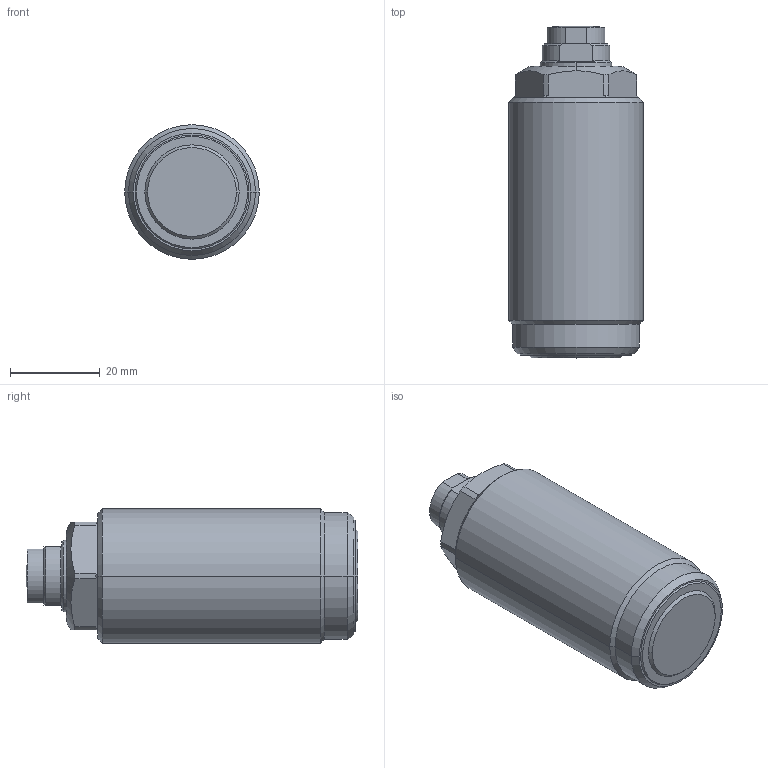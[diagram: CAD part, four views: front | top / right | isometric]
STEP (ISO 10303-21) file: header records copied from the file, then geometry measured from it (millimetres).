
FILE_DESCRIPTION(/* description */ (''),/* implementation_level */ '2;1');
FILE_NAME(/* name */ 'PGSC06-D.stp',/* time_stamp */ '2025-01-05T10:59:46+08:00',/* author */ (''),/* organization */ (''),/* preprocessor_version */ 'ST-DEVELOPER v16.7',/* originating_system */ 'SIEMENS PLM Software NX 12.0',/* authorisation */ '');
FILE_SCHEMA (('AUTOMOTIVE_DESIGN { 1 0 10303 214 3 1 1 1 }'));
Length unit declared in the file: millimetre
Products named in the file (4): PGSC06-D-3; PGSC06-D-2; PGSC06-D-1; CSW06M-D_step
Assembly tree (3 placements, depth 2):
  CSW06M-D_step
    PGSC06-D-1
    PGSC06-D-2
    PGSC06-D-3
Bounding box: 30 x 74 x 30 mm (x, y, z)
Volume: 44285.7 mm3; surface area: 10354.2 mm2
Topology: 3 solids, 3 shells, 89 faces, 202 edges, 127 vertices
Faces by surface type: cylinder 29, cone 29, plane 25, torus 4, sphere 2
Entity records: 2640 total; most frequent: CARTESIAN_POINT 514, DIRECTION 456, ORIENTED_EDGE 404, EDGE_CURVE 202, AXIS2_PLACEMENT_3D 189, VERTEX_POINT 127, EDGE_LOOP 97, CIRCLE 96
